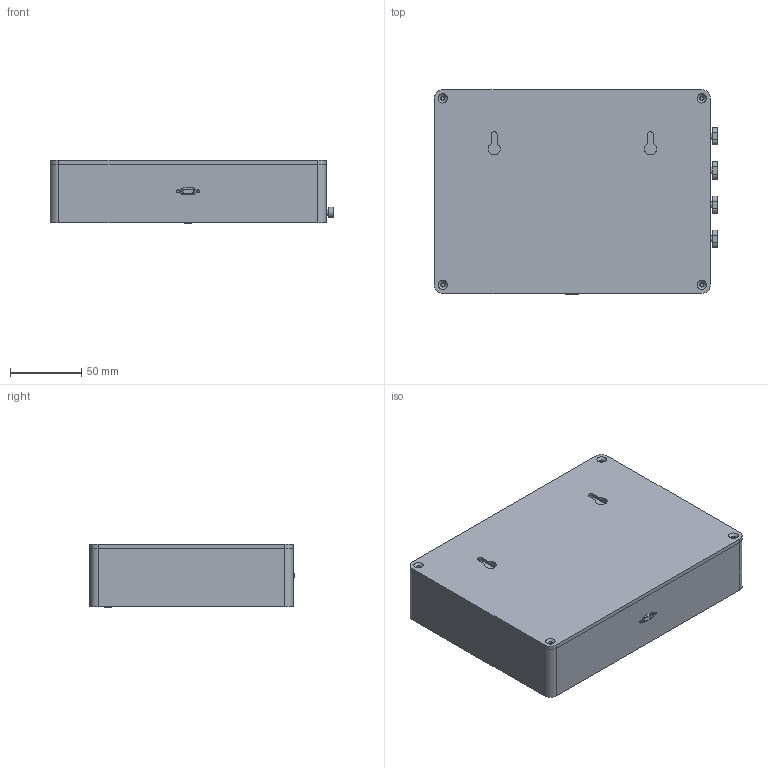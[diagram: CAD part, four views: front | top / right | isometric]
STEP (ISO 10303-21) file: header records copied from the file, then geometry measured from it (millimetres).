
FILE_DESCRIPTION(('Open CASCADE Model'),'2;1');
FILE_NAME('Open CASCADE Shape Model','2026-11-15T12:10:16',('Author'),( 'Open CASCADE'),'Open CASCADE STEP processor 7.8','Open CASCADE 7.8' ,'Unknown');
FILE_SCHEMA(('AUTOMOTIVE_DESIGN { 1 0 10303 214 1 1 1 1 }'));
Length unit declared in the file: millimetre
Products named in the file (13): Mount_Madonna_Inky_Case; body; back_panel; plunger_1; cap_1; plunger_2; cap_2; plunger_3; cap_3; plunger_4; cap_4; bought_USB_C_connector_REFERENCE_ONLY; optional_led_blank
Assembly tree (12 placements, depth 2):
  Mount_Madonna_Inky_Case
    body
    back_panel
    plunger_1
    cap_1
    plunger_2
    cap_2
    plunger_3
    cap_3
    plunger_4
    cap_4
    bought_USB_C_connector_REFERENCE_ONLY
    optional_led_blank
Bounding box: 199.4 x 143.7 x 44.8 mm (x, y, z)
Volume: 197058.7 mm3; surface area: 143137.8 mm2
Topology: 12 solids, 12 shells, 335 faces, 777 edges, 514 vertices
Faces by surface type: plane 174, cylinder 113, extrusion 40, cone 8
Full cylindrical faces by diameter (mm): 1.7 x8, 2 x2, 2.2 x6, 2.5 x4, 3 x1, 3.2 x1, 3.4 x4, 4.2 x4, 4.4 x8, 4.6 x4, 4.8 x1, 5 x4, 5.6 x4, 8.5 x4
Entity records: 21454 total; most frequent: CARTESIAN_POINT 5479, DIRECTION 2887, VECTOR 1683, LINE 1643, ORIENTED_EDGE 1554, PCURVE 1554, DEFINITIONAL_REPRESENTATION 1554, EDGE_CURVE 777
